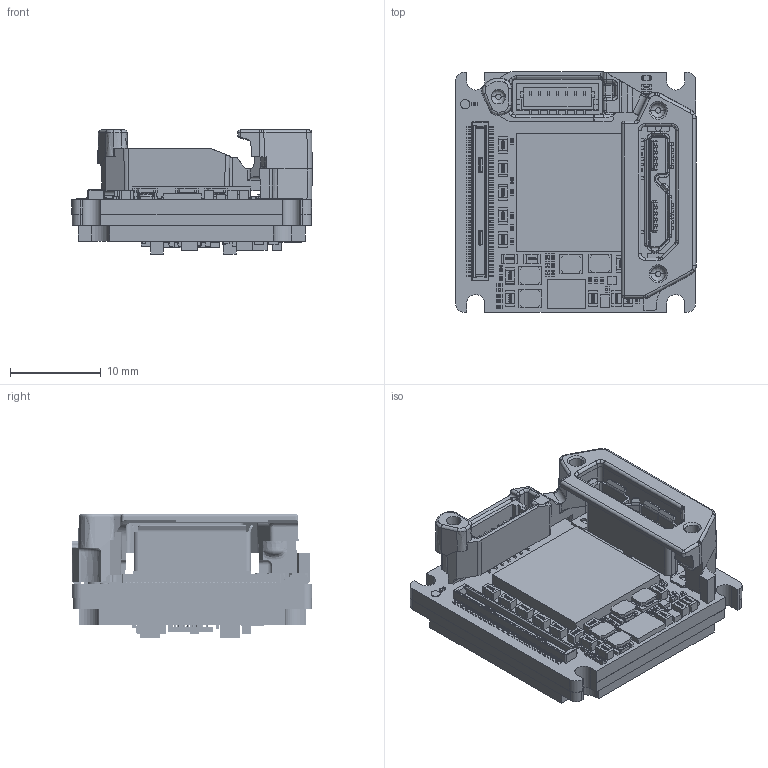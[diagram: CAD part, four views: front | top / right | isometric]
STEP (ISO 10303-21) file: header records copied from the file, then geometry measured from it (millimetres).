
FILE_DESCRIPTION (( 'STEP AP214' ), '1' );
FILE_NAME ('Alvium-USB180-Bare-Board-P480.STEP', '2022-11-18T14:05:19', ( '' ), ( '' ), 'SwSTEP 2.0', 'SolidWorks 2021', '' );
FILE_SCHEMA (( 'AUTOMOTIVE_DESIGN' ));
Length unit declared in the file: millimetre
Products named in the file (1): Alvium-USB180-Bare-Board-P480
Bounding box: 26.48 x 26.45 x 13.67 mm (x, y, z)
Surface area: 5036.5 mm2 (no closed solid volume)
Topology: 0 solids, 161 shells, 8828 faces, 22472 edges, 14642 vertices
Faces by surface type: plane 4379, bspline 3475, cylinder 870, cone 46, torus 40, sphere 18
Entity records: 555687 total; most frequent: CARTESIAN_POINT 267591, ORIENTED_EDGE 44910, DIRECTION 27899, EDGE_CURVE 22455, VERTEX_POINT 14645, LINE 13545, VECTOR 13545, EDGE_LOOP 9540
